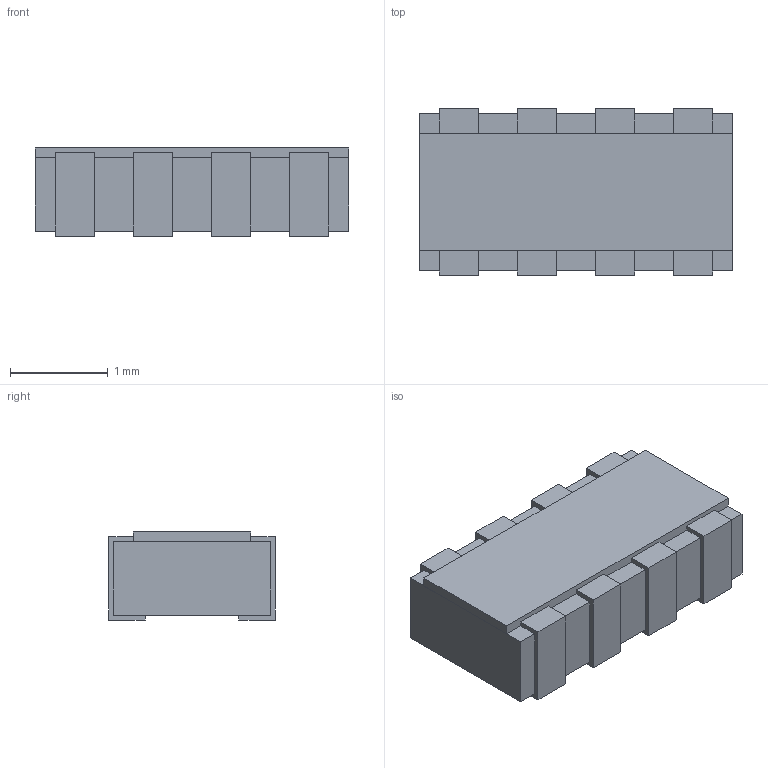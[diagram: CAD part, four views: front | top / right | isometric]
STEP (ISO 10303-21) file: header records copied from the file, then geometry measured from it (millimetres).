
FILE_DESCRIPTION (( 'STEP AP214' ), '1' );
FILE_NAME ( 'INDCAF8P80_320X160X90L37X40.STEP', '2021-10-06T06:48:58', ( '' ), ( '' ), '', '©2017 PCB Libraries, Inc.', '' );
FILE_SCHEMA (( 'AUTOMOTIVE_DESIGN' ));
Length unit declared in the file: millimetre
Products named in the file (1): INDCAF8P80_320X160X90L37X40
Bounding box: 3.2 x 1.7 x 0.9 mm (x, y, z)
Volume: 4.4 mm3; surface area: 36.2 mm2
Topology: 10 solids, 10 shells, 92 faces, 216 edges, 144 vertices
Faces by surface type: plane 92
Entity records: 2953 total; most frequent: CARTESIAN_POINT 453, ORIENTED_EDGE 432, DIRECTION 402, VECTOR 216, LINE 216, EDGE_CURVE 216, VERTEX_POINT 144, STYLED_ITEM 103
